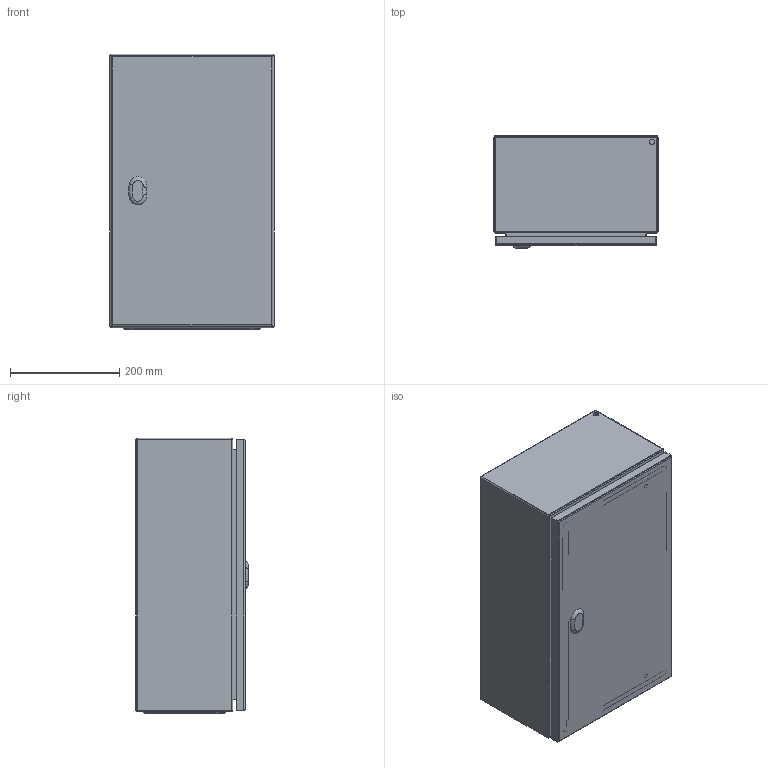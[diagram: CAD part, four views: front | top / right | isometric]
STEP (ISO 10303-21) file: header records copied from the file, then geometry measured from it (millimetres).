
FILE_DESCRIPTION(/* description */ ('STEP AP214'),/* implementation_level */ '2;1');
FILE_NAME(/* name */ 'EC030520-LOD400',/* time_stamp */ '2025-07-31T10:49:00+02:00',/* author */ ('License CC BY-ND 4.0'),/* organization */ ('CADENAS'),/* preprocessor_version */ 'ST-DEVELOPER v19.3',/* originating_system */ 'PARTsolutions',/* authorisation */ ' ');
FILE_SCHEMA (('AUTOMOTIVE_DESIGN {1 0 10303 214 3 1 1}'));
Length unit declared in the file: millimetre
Products named in the file (5): EC030520-LOD400; EC030520-LOD400_cabinet; EC030520-LOD400_door; EC030520-LOD400_bottom_plate; EC030520-LOD400_inner_plate
Assembly tree (4 placements, depth 2):
  EC030520-LOD400
    EC030520-LOD400_cabinet
    EC030520-LOD400_door
    EC030520-LOD400_bottom_plate
    EC030520-LOD400_inner_plate
Bounding box: 300 x 205 x 504 mm (x, y, z)
Volume: 1319105.8 mm3; surface area: 1635506.9 mm2
Topology: 4 solids, 4 shells, 458 faces, 1114 edges, 720 vertices
Faces by surface type: cylinder 190, plane 178, cone 46, torus 44
Full cylindrical faces by diameter (mm): 1 x32, 4.5 x40, 5 x4, 5.5 x4, 6 x4, 7 x4, 8 x12, 10 x10, 14 x4
Entity records: 12675 total; most frequent: DIRECTION 2326, CARTESIAN_POINT 2033, ORIENTED_EDGE 1800, AXIS2_PLACEMENT_3D 963, EDGE_CURVE 900, EDGE_LOOP 820, FACE_BOUND 820, VERTEX_POINT 670
